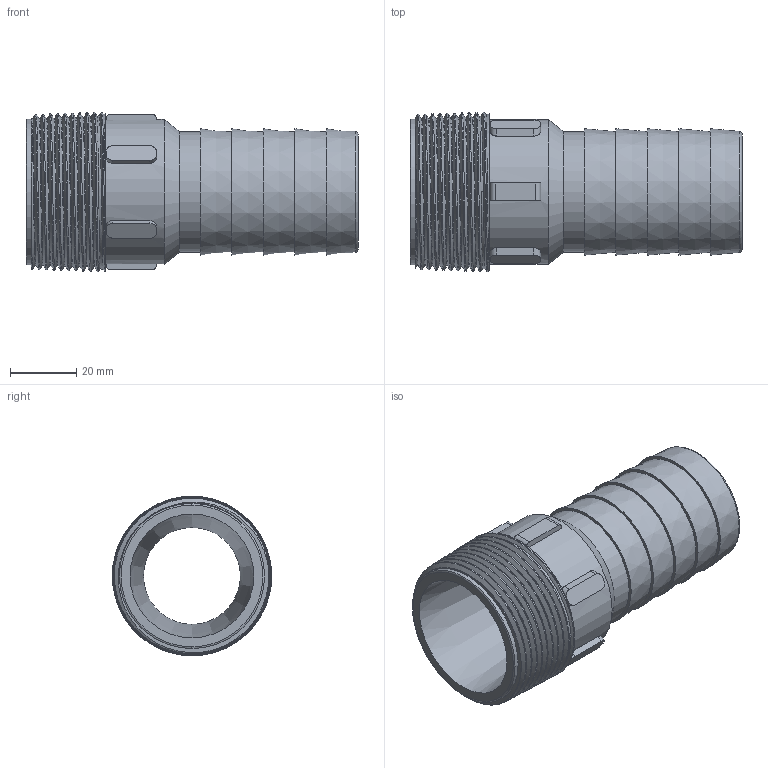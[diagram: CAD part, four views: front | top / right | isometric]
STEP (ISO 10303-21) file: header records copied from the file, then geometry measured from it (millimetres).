
FILE_DESCRIPTION(/* description */ ('Alibre Inc.'),/* implementation_level */ '2;1');
FILE_NAME(/* name */ 'export0',/* time_stamp */ '2016-12-06T14:20:01-05:00',/* author */ (''),/* organization */ (''),/* preprocessor_version */ 'ST-DEVELOPER v14',/* originating_system */ 'Alibre',/* authorisation */ '');
FILE_SCHEMA (('CONFIG_CONTROL_DESIGN'));
Length unit declared in the file: centimetre
Products named in the file (1): ID_1
Bounding box: 100.08 x 48.07 x 48.1 mm (x, y, z)
Volume: 56239.2 mm3; surface area: 26760.6 mm2
Topology: 1 solids, 1 shells, 105 faces, 270 edges, 179 vertices
Faces by surface type: plane 39, cone 36, cylinder 24, torus 3, bspline 3
Full cylindrical faces by diameter (mm): 29.21 x1, 36.322 x1, 43.688 x1, 43.796 x1
Entity records: 31467 total; most frequent: CARTESIAN_POINT 29038, ORIENTED_EDGE 504, DIRECTION 404, EDGE_CURVE 252, VERTEX_POINT 174, AXIS2_PLACEMENT_3D 170, EDGE_LOOP 132, FACE_BOUND 132
